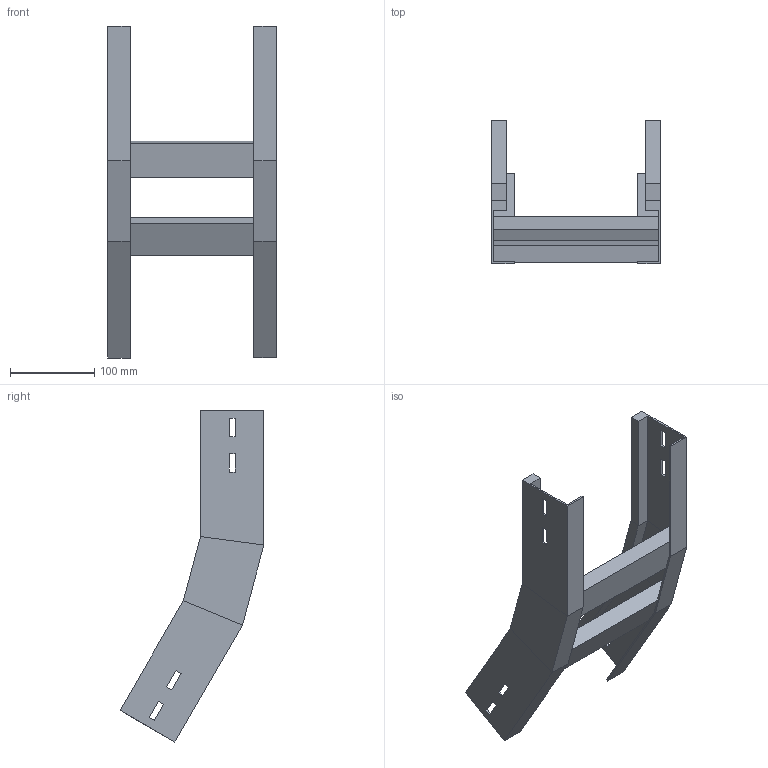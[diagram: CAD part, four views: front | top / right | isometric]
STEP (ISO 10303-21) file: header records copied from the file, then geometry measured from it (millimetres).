
FILE_DESCRIPTION (( 'STEP AP214' ), '1' );
FILE_NAME ('A2X32B3C200XX.step', '2025-03-20T10:01:24', ( '' ), ( '' ), 'SwSTEP 2.0', 'SolidWorks 2023', '' );
FILE_SCHEMA (( 'AUTOMOTIVE_DESIGN' ));
Length unit declared in the file: millimetre
Products named in the file (3): A2X32B3C200XX; TRAVERSINO_200; LONGH.SALITA_30°_H75_R300
Assembly tree (4 placements, depth 2):
  A2X32B3C200XX
    LONGH.SALITA_30°_H75_R300  x2
    TRAVERSINO_200  x2
Bounding box: 200 x 170.24 x 392.95 mm (x, y, z)
Volume: 622602.7 mm3; surface area: 239397.9 mm2
Topology: 4 solids, 4 shells, 96 faces, 232 edges, 144 vertices
Faces by surface type: plane 96
Entity records: 1472 total; most frequent: CARTESIAN_POINT 243, ORIENTED_EDGE 232, DIRECTION 226, EDGE_CURVE 116, LINE 116, VECTOR 116, VERTEX_POINT 72, EDGE_LOOP 56
